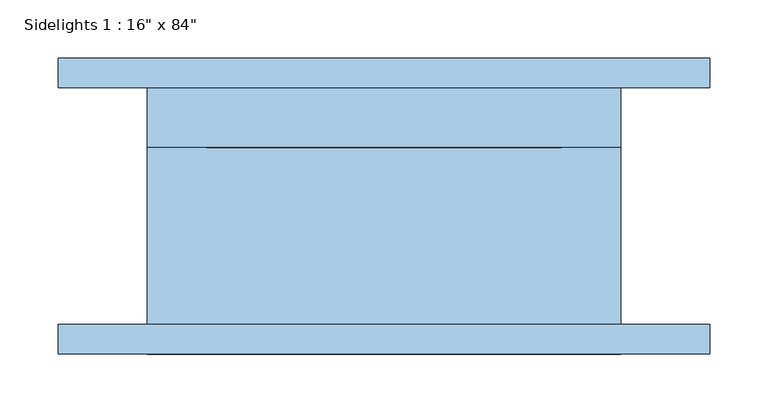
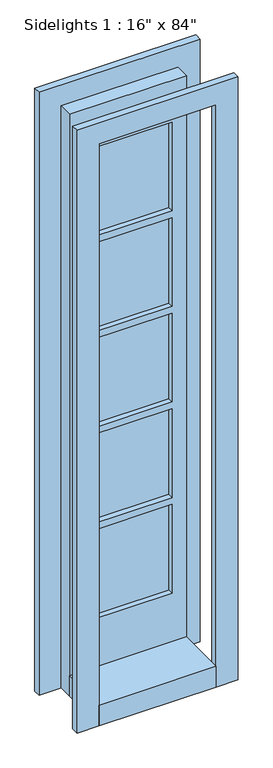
"""IFC4 building model written with IfcOpenShell, lengths in millimetres: window geometry."""

import ifcopenshell
import ifcopenshell.guid

model = None  # the IFC model being written
_history = None  # IfcOwnerHistory: only IFC2X3 demands one
_inside = {}  # id of a spatial element -> (the spatial element, [elements in it])
_under = {}  # id of a project, library or spatial element -> (it, [spatial elements below it])
_declared = {}  # id of a project -> (the project, [libraries it declares])
_typed = {}  # id of a type object -> (the type object, [elements of that type])
_made_of = {}  # id of a material, layer set ... -> (it, [elements and type objects made of it])


def new_model(schema):
    """Start an empty IFC model of exactly this schema.

    Asked for "IFC4X3", IfcOpenShell would pick the latest addendum, in which some entities
    have other attributes; the version numbers below select the first issue.
    IFC2X3 requires an IfcOwnerHistory on every rooted entity: one is made here for all.
    """
    global model, _history
    if schema == "IFC4X3":
        model = ifcopenshell.file(schema_version=(4, 3, 0, 0))
    else:
        model = ifcopenshell.file(schema=schema)
    _inside.clear()
    _under.clear()
    _declared.clear()
    _typed.clear()
    _made_of.clear()
    _history = None
    if model.schema == "IFC2X3":
        org = make("IfcOrganization", Name="unknown")
        user = make(
            "IfcPersonAndOrganization",
            ThePerson=make("IfcPerson", FamilyName="unknown"),
            TheOrganization=org,
        )
        app = make(
            "IfcApplication",
            ApplicationDeveloper=org,
            Version="unknown",
            ApplicationFullName="unknown",
            ApplicationIdentifier="unknown",
        )
        _history = make(
            "IfcOwnerHistory",
            OwningUser=user,
            OwningApplication=app,
            ChangeAction="ADDED",
            CreationDate=0,
        )
    return model


def make(cls, **values):
    """One entity of the class cls with the attributes given. An attribute that is None is left unset."""
    return model.create_entity(
        cls, **{name: value for name, value in values.items() if value is not None}
    )


def rooted(cls, **values):
    """An entity with a GlobalId (a new one), such as an element, a storey or a relation."""
    return make(cls, GlobalId=ifcopenshell.guid.new(), OwnerHistory=_history, **values)


def si_unit(unit_type, name, prefix=None):
    """IfcSIUnit, for example si_unit("LENGTHUNIT", "METRE", prefix="MILLI")."""
    return make("IfcSIUnit", UnitType=unit_type, Prefix=prefix, Name=name)


def assignment(units):
    """IfcUnitAssignment: the units of a project."""
    return None if units is None else make("IfcUnitAssignment", Units=units)


def point(xyz):
    """IfcCartesianPoint."""
    return None if xyz is None else make("IfcCartesianPoint", Coordinates=xyz)


def direction(xyz):
    """IfcDirection."""
    return None if xyz is None else make("IfcDirection", DirectionRatios=xyz)


def frame(location, z_axis=None, x_axis=None):
    """IfcAxis2Placement3D, a coordinate frame: its origin and axes. An axis left out is left unset."""
    return make(
        "IfcAxis2Placement3D",
        Location=point(location),
        Axis=direction(z_axis),
        RefDirection=direction(x_axis),
    )


def origin():
    """The frame at (0, 0, 0) with its axes left unset."""
    return frame((0.0, 0.0, 0.0))


def origin_with_axes():
    """The frame at (0, 0, 0) with the z axis (0, 0, 1) and the x axis (1, 0, 0) written out."""
    return frame((0.0, 0.0, 0.0), z_axis=(0.0, 0.0, 1.0), x_axis=(1.0, 0.0, 0.0))


def place(relative_to, where):
    """IfcLocalPlacement: puts the frame where relative to a parent placement (None: the world)."""
    return make(
        "IfcLocalPlacement", PlacementRelTo=relative_to, RelativePlacement=where
    )


def context(
    kind, dimensions, precision=None, world=None, true_north=None, identifier=None
):
    """IfcGeometricRepresentationContext, for example the 3D "Model" context."""
    return make(
        "IfcGeometricRepresentationContext",
        ContextIdentifier=identifier,
        ContextType=kind,
        CoordinateSpaceDimension=dimensions,
        Precision=precision,
        WorldCoordinateSystem=world,
        TrueNorth=true_north,
    )


def project(units=None, contexts=None):
    """IfcProject with its units and contexts."""
    return rooted(
        "IfcProject",
        Name="project",
        RepresentationContexts=contexts,
        UnitsInContext=assignment(units),
    )


def spatial(cls, under=None, at=None, **own):
    """A site, building, storey or space (cls), placed at a placement, below another one or the project."""
    s = rooted(cls, ObjectPlacement=at, **own)
    if under is not None:
        _under.setdefault(under.id(), (under, []))[1].append(s)
    return s


def polyline(points):
    """IfcPolyline through the points."""
    return make("IfcPolyline", Points=[point(p) for p in points])


def outline(outer, holes=None, kind="AREA"):
    """IfcArbitraryClosedProfileDef: a profile drawn as a closed curve; with holes, ...WithVoids."""
    if holes is None:
        return make("IfcArbitraryClosedProfileDef", ProfileType=kind, OuterCurve=outer)
    return make(
        "IfcArbitraryProfileDefWithVoids",
        ProfileType=kind,
        OuterCurve=outer,
        InnerCurves=holes,
    )


def extrude(swept, where, along, depth):
    """IfcExtrudedAreaSolid: the profile swept, set in the frame where, extruded along a direction by depth."""
    return make(
        "IfcExtrudedAreaSolid",
        SweptArea=swept,
        Position=where,
        ExtrudedDirection=direction(along),
        Depth=depth,
    )


def shape(context_of_items, identifier, shape_type, items):
    """IfcShapeRepresentation: the items that make up one representation, for example the "Body"."""
    return make(
        "IfcShapeRepresentation",
        ContextOfItems=context_of_items,
        RepresentationIdentifier=identifier,
        RepresentationType=shape_type,
        Items=items,
    )


def source(mapping_origin, context_of_items, identifier, shape_type, items):
    """IfcRepresentationMap: a shape defined once, which mapped items show again and again."""
    return make(
        "IfcRepresentationMap",
        MappingOrigin=mapping_origin,
        MappedRepresentation=shape(context_of_items, identifier, shape_type, items),
    )


def transform(
    local_origin,
    x_axis=None,
    y_axis=None,
    z_axis=None,
    scale=None,
    scale2=None,
    scale3=None,
    uniform=True,
):
    """IfcCartesianTransformationOperator3D, or its non-uniform kind. x_axis, y_axis, z_axis: its Axis1, 2, 3."""
    if uniform:
        return make(
            "IfcCartesianTransformationOperator3D",
            Axis1=direction(x_axis),
            Axis2=direction(y_axis),
            LocalOrigin=point(local_origin),
            Scale=scale,
            Axis3=direction(z_axis),
        )
    return make(
        "IfcCartesianTransformationOperator3DnonUniform",
        Axis1=direction(x_axis),
        Axis2=direction(y_axis),
        LocalOrigin=point(local_origin),
        Scale=scale,
        Axis3=direction(z_axis),
        Scale2=scale2,
        Scale3=scale3,
    )


def mapped(mapping_source, mapping_target):
    """IfcMappedItem: shows the shape of a source again, moved by a transform."""
    return make(
        "IfcMappedItem", MappingSource=mapping_source, MappingTarget=mapping_target
    )


def made_of(thing, what):
    """Note that an element or type object is made of a material, layer set ...; save() writes the relation."""
    if what is not None:
        _made_of.setdefault(what.id(), (what, []))[1].append(thing)
    return thing


def element(
    cls,
    number,
    at=None,
    inside=None,
    cuts=None,
    type_object=None,
    material=None,
    context=None,
    identifier="Body",
    shape_type=None,
    held_by="IfcProductDefinitionShape",
    body=None,
    shapes=None,
    **own,
):
    """One element of the class cls, such as IfcWall. Its Tag is "e" and its number.

    at: its placement. inside: the storey or other place that contains it. cuts: it is an
    opening in that element (IfcRelVoidsElement). A single representation is given by context,
    identifier, shape_type and body (its items); several are given by shapes. held_by: the class
    of the entity that holds the representations. save() writes the other relations.
    """
    e = rooted(cls, Tag="e%d" % number, ObjectPlacement=at, **own)
    if body is not None:
        shapes = [shape(context, identifier, shape_type, body)]
    if shapes is not None:
        e.Representation = make(held_by, Representations=shapes)
    if inside is not None:
        _inside.setdefault(inside.id(), (inside, []))[1].append(e)
    if cuts is not None:
        rooted(
            "IfcRelVoidsElement", RelatingBuildingElement=cuts, RelatedOpeningElement=e
        )
    if type_object is not None:
        _typed.setdefault(type_object.id(), (type_object, []))[1].append(e)
    return made_of(e, material)


def aggregate(whole, parts):
    """IfcRelAggregates: a whole, such as a stair, and the parts it consists of."""
    return rooted("IfcRelAggregates", RelatingObject=whole, RelatedObjects=parts)


def save(model, path):
    """Write the relations noted so far, then the file.

    IfcRelAggregates (storeys below a building ...), IfcRelContainedInSpatialStructure (elements
    in a storey), IfcRelDefinesByType, IfcRelAssociatesMaterial and IfcRelDeclares: one each for
    every whole, place, type object, material and project.
    """
    for whole, parts in _under.values():
        aggregate(whole, parts)
    for where, things in _inside.values():
        rooted(
            "IfcRelContainedInSpatialStructure",
            RelatedElements=things,
            RelatingStructure=where,
        )
    for kind, things in _typed.values():
        rooted("IfcRelDefinesByType", RelatedObjects=things, RelatingType=kind)
    for what, things in _made_of.values():
        rooted("IfcRelAssociatesMaterial", RelatedObjects=things, RelatingMaterial=what)
    for by, libraries in _declared.values():
        rooted("IfcRelDeclares", RelatingContext=by, RelatedDefinitions=libraries)
    model.write(path)


def window_fc224a87(model_context):
    return source(origin(), model_context, "Body", "SweptSolid", [
        extrude(outline(polyline([(0.0, 533.4), (2209.8, 533.4), (2209.8, -25.4), (0.0, -25.4), (0.0, 533.4)]), holes=[polyline([(2133.6, 50.8), (2133.6, 457.2), (76.2, 457.2), (76.2, 50.8), (2133.6, 50.8)])]), frame((0.0, 101.6, 0.0), z_axis=(0.0, 1.0, 0.0), x_axis=(0.0, 0.0, 1.0)), (0.0, 0.0, 1.0), 25.4),
        extrude(outline(polyline([(457.2, -127.0), (50.8, -127.0), (50.8, 50.8), (457.2, 50.8), (457.2, -127.0)])), origin_with_axes(), (0.0, 0.0, 1.0), 76.2),
        extrude(outline(polyline([(101.6, 82.55), (406.4, 82.55), (406.4, 69.85), (101.6, 69.85), (101.6, 82.55)])), frame((0.0, 0.0, 1656.08), z_axis=(0.0, 0.0, 1.0), x_axis=(1.0, 0.0, 0.0)), (0.0, 0.0, 1.0), 325.12),
        extrude(outline(polyline([(101.6, 82.55), (406.4, 82.55), (406.4, 69.85), (101.6, 69.85), (101.6, 82.55)])), frame((0.0, 0.0, 1305.56), z_axis=(0.0, 0.0, 1.0), x_axis=(1.0, 0.0, 0.0)), (0.0, 0.0, 1.0), 325.12),
        extrude(outline(polyline([(101.6, 82.55), (406.4, 82.55), (406.4, 69.85), (101.6, 69.85), (101.6, 82.55)])), frame((0.0, 0.0, 955.04), z_axis=(0.0, 0.0, 1.0), x_axis=(1.0, 0.0, 0.0)), (0.0, 0.0, 1.0), 325.12),
        extrude(outline(polyline([(101.6, 82.55), (406.4, 82.55), (406.4, 69.85), (101.6, 69.85), (101.6, 82.55)])), frame((0.0, 0.0, 604.52), z_axis=(0.0, 0.0, 1.0), x_axis=(1.0, 0.0, 0.0)), (0.0, 0.0, 1.0), 325.12),
        extrude(outline(polyline([(101.6, 82.55), (406.4, 82.55), (406.4, 69.85), (101.6, 69.85), (101.6, 82.55)])), frame((0.0, 0.0, 254.0), z_axis=(0.0, 0.0, 1.0), x_axis=(1.0, 0.0, 0.0)), (0.0, 0.0, 1.0), 325.12),
        extrude(outline(polyline([(2133.6, 50.8), (0.0, 50.8), (0.0, 457.2), (2133.6, 457.2), (2133.6, 50.8)]), holes=[polyline([(1981.2, 101.6), (1981.2, 406.4), (1656.08, 406.4), (1656.08, 101.6), (1981.2, 101.6)]), polyline([(1630.68, 101.6), (1630.68, 406.4), (1305.56, 406.4), (1305.56, 101.6), (1630.68, 101.6)]), polyline([(1280.16, 101.6), (1280.16, 406.4), (955.04, 406.4), (955.04, 101.6), (1280.16, 101.6)]), polyline([(929.64, 101.6), (929.64, 406.4), (604.52, 406.4), (604.52, 101.6), (929.64, 101.6)]), polyline([(579.12, 101.6), (579.12, 406.4), (254.0, 406.4), (254.0, 101.6), (579.12, 101.6)])]), frame((0.0, 50.8, 0.0), z_axis=(0.0, 1.0, 0.0), x_axis=(0.0, 0.0, 1.0)), (0.0, 0.0, 1.0), 50.8),
        extrude(outline(polyline([(0.0, -25.4), (0.0, 50.8), (2133.6, 50.8), (2133.6, 457.2), (0.0, 457.2), (0.0, 533.4), (2209.8, 533.4), (2209.8, -25.4), (0.0, -25.4)])), frame((0.0, -127.0, 0.0), z_axis=(0.0, 1.0, 0.0), x_axis=(0.0, 0.0, 1.0)), (0.0, 0.0, 1.0), 25.4),
    ])


if __name__ == "__main__":
    model = new_model("IFC4")
    model_context = context("Model", 3, world=origin())
    ifc_project = project(units=[si_unit("LENGTHUNIT", "METRE", prefix="MILLI")], contexts=[model_context])
    site = spatial("IfcSite", under=ifc_project)
    building = spatial("IfcBuilding", under=site)
    placement = place(None, origin())
    window_shape = window_fc224a87(model_context)
    element("IfcWindow", 1, ObjectType="Sidelights 1 : 16\" x 84\"", at=placement, inside=building, context=model_context, shape_type="MappedRepresentation", body=[
        mapped(window_shape, transform((0.0, 0.0, 0.0), x_axis=(1.0, 0.0, 0.0), y_axis=(0.0, 1.0, 0.0), z_axis=(0.0, 0.0, 1.0))),
    ])
    save(model, "model.ifc")
